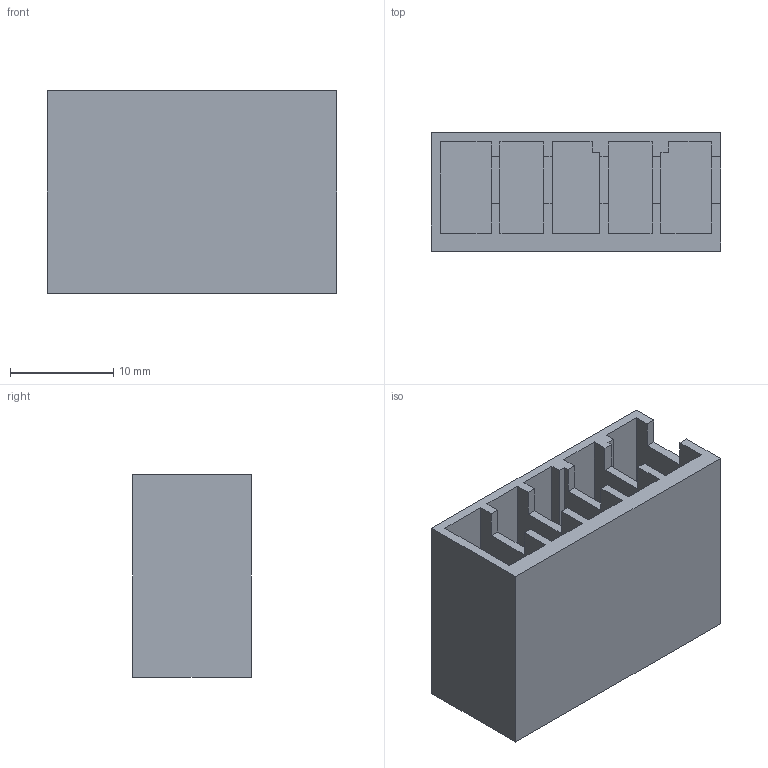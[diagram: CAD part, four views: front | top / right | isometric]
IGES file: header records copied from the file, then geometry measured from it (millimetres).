
Start section:  PTC IGES file: j4-cnp3-2.igs
Global section: file name: j4-cnp3-2.igs; native system: Pro/ENGINEER by Parametric Technology Corporation; preprocessor: 2010160; author: JE18792; organization: Unknown; date: 20121031.180053; units: millimetre
Bounding box: 28 x 11.47 x 19.58 mm (x, y, z)
Volume: 4255.2 mm3; surface area: 3420.9 mm2
Topology: 1 solids, 1 shells, 50 faces, 144 edges, 96 vertices
Faces by surface type: bspline 50
